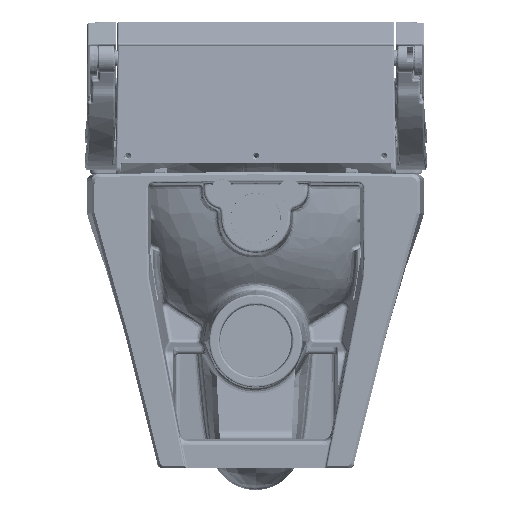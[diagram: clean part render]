
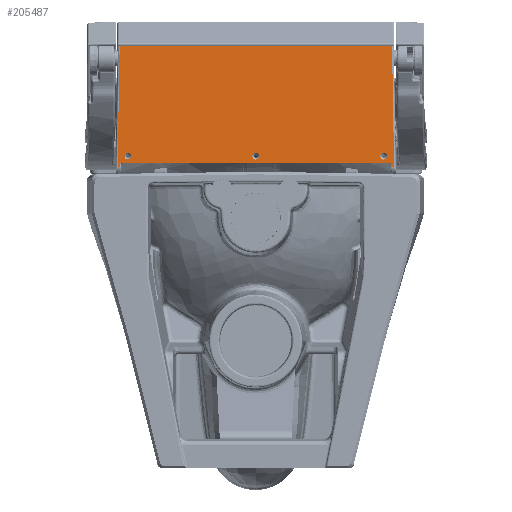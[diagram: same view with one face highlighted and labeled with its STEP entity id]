
A CAD part, left-side view. The second image highlights one B-rep face of the part: STEP entity #205487.
In plain terms, the highlighted planar face has unit normal (-0.999, 0.001, 0.035) as drawn and (0, 0.035, -0.999) by its records, which use the part's own axes.
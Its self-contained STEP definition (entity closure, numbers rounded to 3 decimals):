
#200116=CARTESIAN_POINT('',(-149.549,140.464,4.905));
#200117=VERTEX_POINT('',#200116);
#200143=CARTESIAN_POINT('',(-151.856,8.279,0.289));
#200144=VERTEX_POINT('',#200143);
#200145=CARTESIAN_POINT('',(-151.856,8.279,0.289));
#200146=DIRECTION('',(0.017,0.999,0.035));
#200147=VECTOR('',#200146,132.285);
#200148=LINE('',#200145,#200147);
#200149=EDGE_CURVE('',#200144,#200117,#200148,.T.);
#202175=CARTESIAN_POINT('',(-148.984,8.279,0.288));
#202176=VERTEX_POINT('',#202175);
#202177=CARTESIAN_POINT('',(-151.856,8.279,0.289));
#202178=DIRECTION('',(1.,0.,0.));
#202179=VECTOR('',#202178,2.873);
#202180=LINE('',#202177,#202179);
#202181=EDGE_CURVE('',#200144,#202176,#202180,.T.);
#203370=CARTESIAN_POINT('',(149.549,140.464,4.905));
#203371=VERTEX_POINT('',#203370);
#203372=CARTESIAN_POINT('',(151.856,8.279,0.289));
#203373=VERTEX_POINT('',#203372);
#203374=CARTESIAN_POINT('',(149.549,140.464,4.905));
#203375=DIRECTION('',(0.017,-0.999,-0.035));
#203376=VECTOR('',#203375,132.285);
#203377=LINE('',#203374,#203376);
#203378=EDGE_CURVE('',#203371,#203373,#203377,.T.);
#205356=CARTESIAN_POINT('',(162.182,0.0,0.0));
#205357=DIRECTION('',(0.0,0.035,-0.999));
#205358=DIRECTION('',(-1.0,0.0,0.0));
#205359=AXIS2_PLACEMENT_3D('',#205356,#205357,#205358);
#205360=PLANE('',#205359);
#205361=CARTESIAN_POINT('',(147.087,12.828,0.448));
#205362=VERTEX_POINT('',#205361);
#205363=CARTESIAN_POINT('',(148.886,11.091,0.387));
#205364=VERTEX_POINT('',#205363);
#205365=CARTESIAN_POINT('',(147.087,12.828,0.448));
#205366=CARTESIAN_POINT('',(147.142,12.828,0.448));
#205367=CARTESIAN_POINT('',(147.199,12.826,0.448));
#205368=CARTESIAN_POINT('',(147.259,12.821,0.448));
#205369=CARTESIAN_POINT('',(147.465,12.796,0.447));
#205370=CARTESIAN_POINT('',(147.687,12.737,0.445));
#205371=CARTESIAN_POINT('',(147.853,12.673,0.443));
#205372=CARTESIAN_POINT('',(148.117,12.526,0.437));
#205373=CARTESIAN_POINT('',(148.361,12.308,0.43));
#205374=CARTESIAN_POINT('',(148.445,12.219,0.427));
#205375=CARTESIAN_POINT('',(148.56,12.073,0.422));
#205376=CARTESIAN_POINT('',(148.658,11.91,0.416));
#205377=CARTESIAN_POINT('',(148.688,11.854,0.414));
#205378=CARTESIAN_POINT('',(148.742,11.742,0.41));
#205379=CARTESIAN_POINT('',(148.787,11.624,0.406));
#205380=CARTESIAN_POINT('',(148.807,11.564,0.404));
#205381=CARTESIAN_POINT('',(148.843,11.436,0.399));
#205382=CARTESIAN_POINT('',(148.868,11.304,0.395));
#205383=CARTESIAN_POINT('',(148.877,11.234,0.392));
#205384=CARTESIAN_POINT('',(148.883,11.162,0.39));
#205385=CARTESIAN_POINT('',(148.886,11.091,0.387));
#205386=B_SPLINE_CURVE_WITH_KNOTS('',5,(#205365,#205366,#205367,#205368,#205369,#205370,#205371,#205372,#205373,#205374,#205375,#205376,#205377,#205378,#205379,#205380,#205381,#205382,#205383,#205384,#205385),.UNSPECIFIED.,.F.,.U.,(6,3,3,3,3,3,6),(0.0,0.571,1.974,2.78,3.167,3.545,3.963),.UNSPECIFIED.);
#205387=EDGE_CURVE('',#205362,#205364,#205386,.T.);
#205388=ORIENTED_EDGE('',*,*,#205387,.F.);
#205389=CARTESIAN_POINT('',(-147.087,12.828,0.448));
#205390=VERTEX_POINT('',#205389);
#205391=CARTESIAN_POINT('',(-147.087,12.828,0.448));
#205392=DIRECTION('',(1.0,0.0,0.0));
#205393=VECTOR('',#205392,294.173);
#205394=LINE('',#205391,#205393);
#205395=EDGE_CURVE('',#205390,#205362,#205394,.T.);
#205396=ORIENTED_EDGE('',*,*,#205395,.F.);
#205397=CARTESIAN_POINT('',(-148.886,11.091,0.387));
#205398=VERTEX_POINT('',#205397);
#205399=CARTESIAN_POINT('',(-148.886,11.091,0.387));
#205400=CARTESIAN_POINT('',(-148.884,11.145,0.389));
#205401=CARTESIAN_POINT('',(-148.88,11.201,0.391));
#205402=CARTESIAN_POINT('',(-148.873,11.26,0.393));
#205403=CARTESIAN_POINT('',(-148.842,11.465,0.4));
#205404=CARTESIAN_POINT('',(-148.775,11.687,0.408));
#205405=CARTESIAN_POINT('',(-148.704,11.852,0.414));
#205406=CARTESIAN_POINT('',(-148.547,12.111,0.423));
#205407=CARTESIAN_POINT('',(-148.321,12.347,0.431));
#205408=CARTESIAN_POINT('',(-148.228,12.428,0.434));
#205409=CARTESIAN_POINT('',(-148.078,12.538,0.438));
#205410=CARTESIAN_POINT('',(-147.911,12.63,0.441));
#205411=CARTESIAN_POINT('',(-147.854,12.658,0.442));
#205412=CARTESIAN_POINT('',(-147.739,12.708,0.444));
#205413=CARTESIAN_POINT('',(-147.619,12.749,0.445));
#205414=CARTESIAN_POINT('',(-147.558,12.767,0.446));
#205415=CARTESIAN_POINT('',(-147.43,12.798,0.447));
#205416=CARTESIAN_POINT('',(-147.298,12.818,0.448));
#205417=CARTESIAN_POINT('',(-147.228,12.825,0.448));
#205418=CARTESIAN_POINT('',(-147.157,12.828,0.448));
#205419=CARTESIAN_POINT('',(-147.087,12.828,0.448));
#205420=B_SPLINE_CURVE_WITH_KNOTS('',5,(#205399,#205400,#205401,#205402,#205403,#205404,#205405,#205406,#205407,#205408,#205409,#205410,#205411,#205412,#205413,#205414,#205415,#205416,#205417,#205418,#205419),.UNSPECIFIED.,.F.,.U.,(6,3,3,3,3,3,6),(0.0,0.563,1.964,2.774,3.164,3.546,3.96),.UNSPECIFIED.);
#205421=EDGE_CURVE('',#205398,#205390,#205420,.T.);
#205422=ORIENTED_EDGE('',*,*,#205421,.F.);
#205423=CARTESIAN_POINT('',(-148.984,8.279,0.289));
#205424=DIRECTION('',(0.035,0.999,0.035));
#205425=VECTOR('',#205424,2.815);
#205426=LINE('',#205423,#205425);
#205427=EDGE_CURVE('',#202176,#205398,#205426,.T.);
#205428=ORIENTED_EDGE('',*,*,#205427,.F.);
#205429=ORIENTED_EDGE('',*,*,#202181,.F.);
#205430=ORIENTED_EDGE('',*,*,#200149,.T.);
#205431=CARTESIAN_POINT('',(149.549,140.464,4.905));
#205432=DIRECTION('',(-1.0,0.0,0.0));
#205433=VECTOR('',#205432,299.098);
#205434=LINE('',#205431,#205433);
#205435=EDGE_CURVE('',#203371,#200117,#205434,.T.);
#205436=ORIENTED_EDGE('',*,*,#205435,.F.);
#205437=ORIENTED_EDGE('',*,*,#203378,.T.);
#205438=CARTESIAN_POINT('',(148.984,8.279,0.288));
#205439=VERTEX_POINT('',#205438);
#205440=CARTESIAN_POINT('',(148.984,8.279,0.289));
#205441=DIRECTION('',(1.,0.,0.));
#205442=VECTOR('',#205441,2.873);
#205443=LINE('',#205440,#205442);
#205444=EDGE_CURVE('',#205439,#203373,#205443,.T.);
#205445=ORIENTED_EDGE('',*,*,#205444,.F.);
#205446=CARTESIAN_POINT('',(148.886,11.091,0.387));
#205447=DIRECTION('',(0.035,-0.999,-0.035));
#205448=VECTOR('',#205447,2.815);
#205449=LINE('',#205446,#205448);
#205450=EDGE_CURVE('',#205364,#205439,#205449,.T.);
#205451=ORIENTED_EDGE('',*,*,#205450,.F.);
#205452=EDGE_LOOP('',(#205388,#205396,#205422,#205428,#205429,#205430,#205436,#205437,#205445,#205451));
#205453=FACE_OUTER_BOUND('',#205452,.T.);
#205454=CARTESIAN_POINT('',(140.5,16.25,0.567));
#205455=VERTEX_POINT('',#205454);
#205456=CARTESIAN_POINT('',(140.5,20.0,0.698));
#205457=DIRECTION('',(0.0,-0.035,0.999));
#205458=DIRECTION('',(0.0,0.999,0.035));
#205459=AXIS2_PLACEMENT_3D('',#205456,#205457,#205458);
#205460=ELLIPSE('',#205459,3.752,3.75);
#205461=EDGE_CURVE('',#205455,#205455,#205460,.T.);
#205462=ORIENTED_EDGE('',*,*,#205461,.T.);
#205463=EDGE_LOOP('',(#205462));
#205464=FACE_BOUND('',#205463,.T.);
#205465=CARTESIAN_POINT('',(-140.5,16.25,0.567));
#205466=VERTEX_POINT('',#205465);
#205467=CARTESIAN_POINT('',(-140.5,20.0,0.698));
#205468=DIRECTION('',(0.0,-0.035,0.999));
#205469=DIRECTION('',(0.0,0.999,0.035));
#205470=AXIS2_PLACEMENT_3D('',#205467,#205468,#205469);
#205471=ELLIPSE('',#205470,3.752,3.75);
#205472=EDGE_CURVE('',#205466,#205466,#205471,.T.);
#205473=ORIENTED_EDGE('',*,*,#205472,.T.);
#205474=EDGE_LOOP('',(#205473));
#205475=FACE_BOUND('',#205474,.T.);
#205476=CARTESIAN_POINT('',(-3.75,20.0,0.698));
#205477=VERTEX_POINT('',#205476);
#205478=CARTESIAN_POINT('',(0.0,20.0,0.698));
#205479=DIRECTION('',(0.0,-0.035,0.999));
#205480=DIRECTION('',(0.0,0.999,0.035));
#205481=AXIS2_PLACEMENT_3D('',#205478,#205479,#205480);
#205482=ELLIPSE('',#205481,3.752,3.75);
#205483=EDGE_CURVE('',#205477,#205477,#205482,.T.);
#205484=ORIENTED_EDGE('',*,*,#205483,.T.);
#205485=EDGE_LOOP('',(#205484));
#205486=FACE_BOUND('',#205485,.T.);
#205487=ADVANCED_FACE('',(#205453,#205464,#205475,#205486),#205360,.T.);
